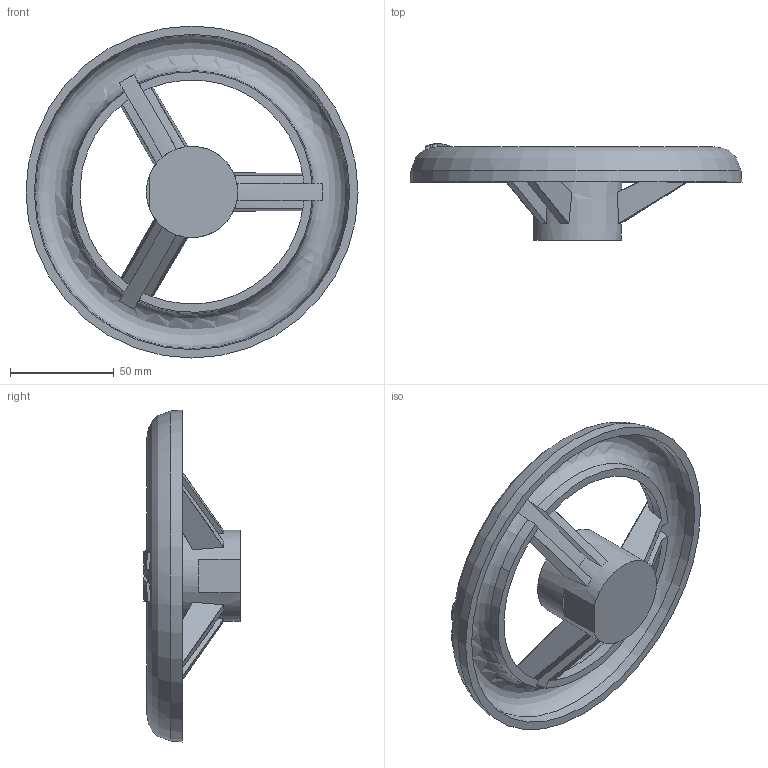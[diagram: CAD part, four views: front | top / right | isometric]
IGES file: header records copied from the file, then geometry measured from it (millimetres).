
Start section: SolidWorks IGES file using analytic representation for surfaces
Global section: file name: \\avksan2\techshare\PBM outline export from Enovia\O_08_66_DN080_AA0.igs; native system: SolidWorks 2012; preprocessor: SolidWorks 2012; author: pbm; date: 180717.124645; units: millimetre
Bounding box: 160 x 46.5 x 160 mm (x, y, z)
Surface area: 54849 mm2 (no closed solid volume)
Topology: 0 solids, 0 shells, 160 faces, 1188 edges, 1181 vertices
Faces by surface type: bspline 114, revolution 46
